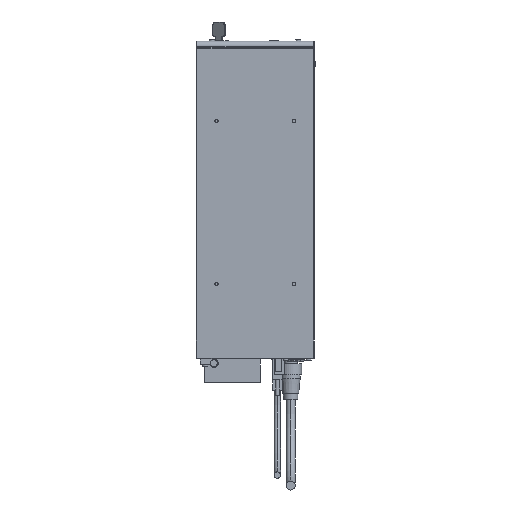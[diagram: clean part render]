
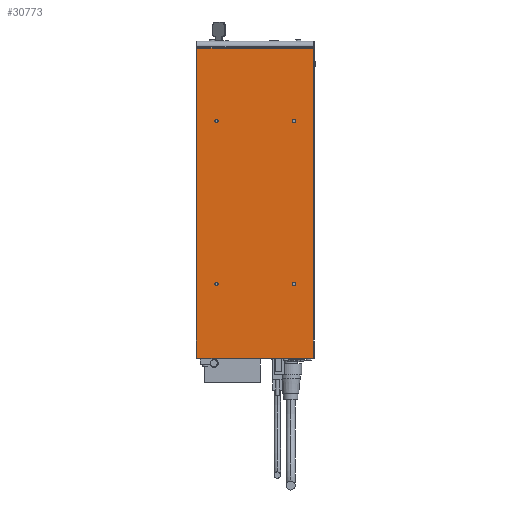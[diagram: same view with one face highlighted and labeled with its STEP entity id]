
A CAD part, front view. The second image highlights one B-rep face of the part: STEP entity #30773.
In plain terms, the highlighted planar face has unit normal (0, -1, 0).
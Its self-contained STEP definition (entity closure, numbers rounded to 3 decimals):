
#5 = ORIENTED_EDGE ( 'NONE', *, *, #19310, .F. ) ;
#488 = EDGE_CURVE ( 'NONE', #15311, #30510, #19549, .T. ) ;
#568 = CARTESIAN_POINT ( 'NONE',  ( 1., 0., -382. ) ) ;
#701 = DIRECTION ( 'NONE',  ( 0., 0., -1. ) ) ;
#1096 = DIRECTION ( 'NONE',  ( 0., -1., 0. ) ) ;
#1152 = ORIENTED_EDGE ( 'NONE', *, *, #27157, .F. ) ;
#1903 = FACE_BOUND ( 'NONE', #36992, .T. ) ;
#2031 = DIRECTION ( 'NONE',  ( 0., 0., -1. ) ) ;
#2983 = VERTEX_POINT ( 'NONE', #17326 ) ;
#3913 = DIRECTION ( 'NONE',  ( 0., -1., 0. ) ) ;
#4235 = DIRECTION ( 'NONE',  ( 0., 0., -1. ) ) ;
#4717 = ORIENTED_EDGE ( 'NONE', *, *, #30071, .F. ) ;
#5024 = CARTESIAN_POINT ( 'NONE',  ( 120., 0., -290. ) ) ;
#5068 = CIRCLE ( 'NONE', #15307, 2.1 ) ;
#5216 = EDGE_CURVE ( 'NONE', #33175, #15311, #20030, .T. ) ;
#6783 = LINE ( 'NONE', #568, #33610 ) ;
#6835 = DIRECTION ( 'NONE',  ( 0., -1., 0. ) ) ;
#7113 = DIRECTION ( 'NONE',  ( 0., -1., 0. ) ) ;
#7505 = CARTESIAN_POINT ( 'NONE',  ( 25., 0., -92.1 ) ) ;
#7837 = DIRECTION ( 'NONE',  ( 0., -1., 0. ) ) ;
#7930 = FACE_OUTER_BOUND ( 'NONE', #24216, .T. ) ;
#8029 = CIRCLE ( 'NONE', #9306, 2.1 ) ;
#8157 = EDGE_CURVE ( 'NONE', #16402, #27004, #33702, .T. ) ;
#8798 = EDGE_LOOP ( 'NONE', ( #1152, #4717 ) ) ;
#9184 = CARTESIAN_POINT ( 'NONE',  ( 25., 0., -90. ) ) ;
#9306 = AXIS2_PLACEMENT_3D ( 'NONE', #18970, #3913, #701 ) ;
#9654 = VERTEX_POINT ( 'NONE', #27763 ) ;
#10009 = CARTESIAN_POINT ( 'NONE',  ( 120., 0., -92.1 ) ) ;
#10118 = CARTESIAN_POINT ( 'NONE',  ( 25., 0., -290. ) ) ;
#10818 = VECTOR ( 'NONE', #22558, 1000. ) ;
#11003 = CARTESIAN_POINT ( 'NONE',  ( 1., 0., -1. ) ) ;
#11070 = ORIENTED_EDGE ( 'NONE', *, *, #30850, .T. ) ;
#11581 = VERTEX_POINT ( 'NONE', #13570 ) ;
#12511 = CARTESIAN_POINT ( 'NONE',  ( 120., 0., -90. ) ) ;
#12545 = CARTESIAN_POINT ( 'NONE',  ( 25., 0., -292.1 ) ) ;
#13015 = AXIS2_PLACEMENT_3D ( 'NONE', #12511, #19126, #37244 ) ;
#13266 = AXIS2_PLACEMENT_3D ( 'NONE', #14136, #38090, #35266 ) ;
#13390 = CARTESIAN_POINT ( 'NONE',  ( 144., 0., 0. ) ) ;
#13570 = CARTESIAN_POINT ( 'NONE',  ( 120., 0., -87.9 ) ) ;
#13602 = CARTESIAN_POINT ( 'NONE',  ( 25., 0., -87.9 ) ) ;
#13743 = LINE ( 'NONE', #26013, #16493 ) ;
#13795 = AXIS2_PLACEMENT_3D ( 'NONE', #9184, #18223, #15009 ) ;
#13885 = ORIENTED_EDGE ( 'NONE', *, *, #19378, .F. ) ;
#14136 = CARTESIAN_POINT ( 'NONE',  ( 0., 0., 0. ) ) ;
#14169 = AXIS2_PLACEMENT_3D ( 'NONE', #5024, #7837, #4235 ) ;
#14251 = VERTEX_POINT ( 'NONE', #15765 ) ;
#14255 = ORIENTED_EDGE ( 'NONE', *, *, #23614, .F. ) ;
#14731 = CARTESIAN_POINT ( 'NONE',  ( 25., 0., -287.9 ) ) ;
#15009 = DIRECTION ( 'NONE',  ( 0., 0., -1. ) ) ;
#15307 = AXIS2_PLACEMENT_3D ( 'NONE', #10118, #7113, #22376 ) ;
#15311 = VERTEX_POINT ( 'NONE', #39373 ) ;
#15765 = CARTESIAN_POINT ( 'NONE',  ( 1., 0., -381. ) ) ;
#16062 = CARTESIAN_POINT ( 'NONE',  ( 120., 0., -290. ) ) ;
#16112 = EDGE_LOOP ( 'NONE', ( #17871, #5 ) ) ;
#16120 = CARTESIAN_POINT ( 'NONE',  ( 0., 0., -1. ) ) ;
#16402 = VERTEX_POINT ( 'NONE', #13602 ) ;
#16493 = VECTOR ( 'NONE', #21391, 1000. ) ;
#16542 = FACE_BOUND ( 'NONE', #16112, .T. ) ;
#17326 = CARTESIAN_POINT ( 'NONE',  ( 120., 0., -287.9 ) ) ;
#17346 = FACE_BOUND ( 'NONE', #8798, .T. ) ;
#17871 = ORIENTED_EDGE ( 'NONE', *, *, #21028, .F. ) ;
#18223 = DIRECTION ( 'NONE',  ( 0., -1., 0. ) ) ;
#18491 = DIRECTION ( 'NONE',  ( 0., 0., -1. ) ) ;
#18616 = ORIENTED_EDGE ( 'NONE', *, *, #5216, .T. ) ;
#18970 = CARTESIAN_POINT ( 'NONE',  ( 25., 0., -90. ) ) ;
#19126 = DIRECTION ( 'NONE',  ( 0., -1., 0. ) ) ;
#19310 = EDGE_CURVE ( 'NONE', #28312, #20766, #26645, .T. ) ;
#19378 = EDGE_CURVE ( 'NONE', #27004, #16402, #8029, .T. ) ;
#19549 = LINE ( 'NONE', #16120, #10818 ) ;
#20030 = LINE ( 'NONE', #13390, #30411 ) ;
#20300 = CIRCLE ( 'NONE', #25437, 2.1 ) ;
#20360 = PLANE ( 'NONE',  #13266 ) ;
#20766 = VERTEX_POINT ( 'NONE', #12545 ) ;
#21028 = EDGE_CURVE ( 'NONE', #20766, #28312, #5068, .T. ) ;
#21391 = DIRECTION ( 'NONE',  ( 1., 0., 0. ) ) ;
#22185 = DIRECTION ( 'NONE',  ( 0., 0., -1. ) ) ;
#22376 = DIRECTION ( 'NONE',  ( 0., 0., -1. ) ) ;
#22517 = CIRCLE ( 'NONE', #36655, 2.1 ) ;
#22558 = DIRECTION ( 'NONE',  ( -1., 0., 0. ) ) ;
#23385 = ORIENTED_EDGE ( 'NONE', *, *, #27570, .T. ) ;
#23445 = EDGE_CURVE ( 'NONE', #2983, #9654, #22517, .T. ) ;
#23614 = EDGE_CURVE ( 'NONE', #9654, #2983, #31510, .T. ) ;
#24216 = EDGE_LOOP ( 'NONE', ( #27932, #23385, #11070, #18616 ) ) ;
#24978 = VERTEX_POINT ( 'NONE', #10009 ) ;
#25238 = ORIENTED_EDGE ( 'NONE', *, *, #8157, .F. ) ;
#25266 = DIRECTION ( 'NONE',  ( 0., 0., -1. ) ) ;
#25437 = AXIS2_PLACEMENT_3D ( 'NONE', #29160, #38403, #2031 ) ;
#26013 = CARTESIAN_POINT ( 'NONE',  ( 145., 0., -381. ) ) ;
#26464 = DIRECTION ( 'NONE',  ( 0., 0., 1. ) ) ;
#26645 = CIRCLE ( 'NONE', #36931, 2.1 ) ;
#27004 = VERTEX_POINT ( 'NONE', #7505 ) ;
#27157 = EDGE_CURVE ( 'NONE', #24978, #11581, #32294, .T. ) ;
#27570 = EDGE_CURVE ( 'NONE', #30510, #14251, #6783, .T. ) ;
#27763 = CARTESIAN_POINT ( 'NONE',  ( 120., 0., -292.1 ) ) ;
#27932 = ORIENTED_EDGE ( 'NONE', *, *, #488, .T. ) ;
#28312 = VERTEX_POINT ( 'NONE', #14731 ) ;
#29160 = CARTESIAN_POINT ( 'NONE',  ( 120., 0., -90. ) ) ;
#30071 = EDGE_CURVE ( 'NONE', #11581, #24978, #20300, .T. ) ;
#30411 = VECTOR ( 'NONE', #26464, 1000. ) ;
#30510 = VERTEX_POINT ( 'NONE', #11003 ) ;
#30773 = ADVANCED_FACE ( 'NONE', ( #1903, #17346, #32252, #16542, #7930 ), #20360, .T. ) ;
#30850 = EDGE_CURVE ( 'NONE', #14251, #33175, #13743, .T. ) ;
#31361 = EDGE_LOOP ( 'NONE', ( #14255, #32266 ) ) ;
#31510 = CIRCLE ( 'NONE', #14169, 2.1 ) ;
#32252 = FACE_BOUND ( 'NONE', #31361, .T. ) ;
#32266 = ORIENTED_EDGE ( 'NONE', *, *, #23445, .F. ) ;
#32294 = CIRCLE ( 'NONE', #13015, 2.1 ) ;
#33175 = VERTEX_POINT ( 'NONE', #36105 ) ;
#33610 = VECTOR ( 'NONE', #25266, 1000. ) ;
#33702 = CIRCLE ( 'NONE', #13795, 2.1 ) ;
#35266 = DIRECTION ( 'NONE',  ( 0., 0., -1. ) ) ;
#36105 = CARTESIAN_POINT ( 'NONE',  ( 144., 0., -381. ) ) ;
#36655 = AXIS2_PLACEMENT_3D ( 'NONE', #16062, #6835, #18491 ) ;
#36931 = AXIS2_PLACEMENT_3D ( 'NONE', #37676, #1096, #22185 ) ;
#36992 = EDGE_LOOP ( 'NONE', ( #13885, #25238 ) ) ;
#37244 = DIRECTION ( 'NONE',  ( 0., 0., -1. ) ) ;
#37676 = CARTESIAN_POINT ( 'NONE',  ( 25., 0., -290. ) ) ;
#38090 = DIRECTION ( 'NONE',  ( 0., -1., 0. ) ) ;
#38403 = DIRECTION ( 'NONE',  ( 0., -1., 0. ) ) ;
#39373 = CARTESIAN_POINT ( 'NONE',  ( 144., 0., -1. ) ) ;
